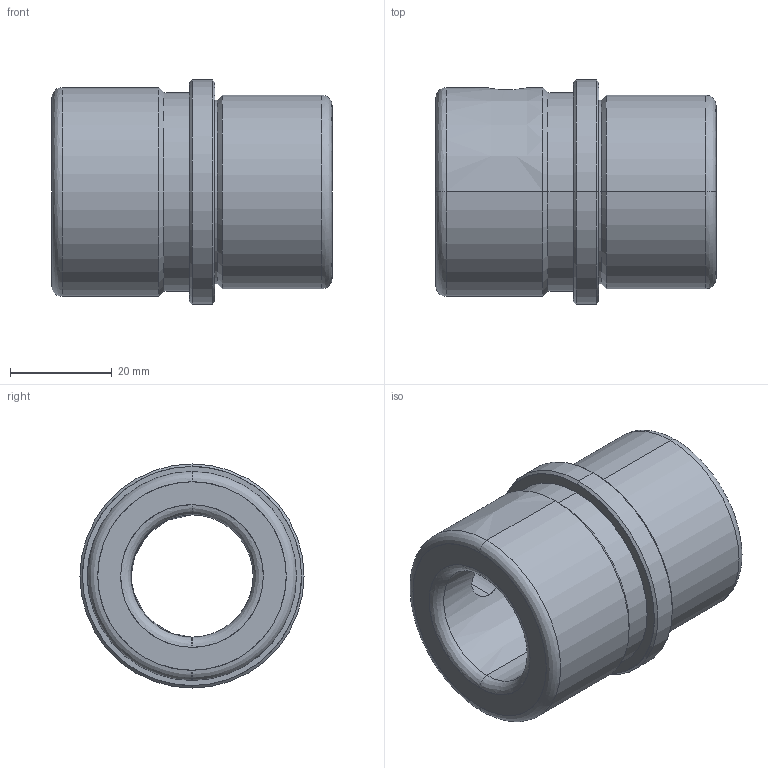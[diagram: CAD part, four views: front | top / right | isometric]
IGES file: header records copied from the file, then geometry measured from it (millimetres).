
Start section: START RECORD GO HERE.
Global section: file name: FAMO-SF1-C24 x 55.igs; native system: DASSAULT SYSTEMES CATIA V5 R20 - www.3ds.com; preprocessor: CATIA Version 5 Release 20 ; author: Utente; organization: NB04-ASUS; date: 20210106.175141; units: millimetre
Bounding box: 55 x 44 x 44 mm (x, y, z)
Surface area: 13356.9 mm2 (no closed solid volume)
Topology: 0 solids, 0 shells, 37 faces, 252 edges, 252 vertices
Faces by surface type: revolution 32, plane 5
